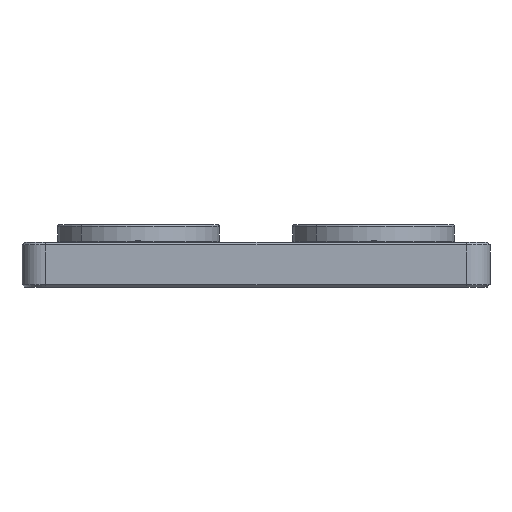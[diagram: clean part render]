
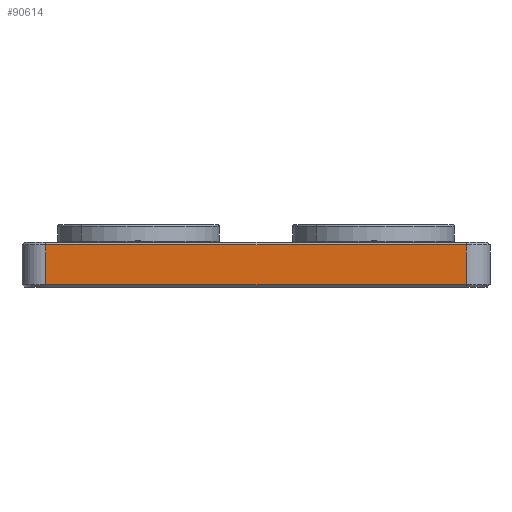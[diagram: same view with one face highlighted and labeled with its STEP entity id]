
A CAD part, front view. The second image highlights one B-rep face of the part: STEP entity #90614.
In plain terms, the highlighted planar face has unit normal (0, -1, 0).
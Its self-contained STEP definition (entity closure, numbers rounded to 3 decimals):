
#3214 = DIRECTION ( 'NONE',  ( -1., 0., 0. ) ) ;
#3708 = VECTOR ( 'NONE', #31132, 1000. ) ;
#6743 = VECTOR ( 'NONE', #7671, 1000. ) ;
#7671 = DIRECTION ( 'NONE',  ( 0., 0., 1. ) ) ;
#9305 = EDGE_CURVE ( 'NONE', #76966, #72842, #77827, .T. ) ;
#9892 = LINE ( 'NONE', #38690, #75388 ) ;
#18410 = EDGE_CURVE ( 'NONE', #63575, #77781, #98511, .T. ) ;
#31132 = DIRECTION ( 'NONE',  ( 0., 0., -1. ) ) ;
#38690 = CARTESIAN_POINT ( 'NONE',  ( -373.716, 156.841, 598.878 ) ) ;
#45429 = EDGE_CURVE ( 'NONE', #72842, #63575, #9892, .T. ) ;
#49217 = CARTESIAN_POINT ( 'NONE',  ( -393.716, 156.841, 600.878 ) ) ;
#52908 = CARTESIAN_POINT ( 'NONE',  ( -15.716, 156.841, 600.878 ) ) ;
#57359 = CARTESIAN_POINT ( 'NONE',  ( -15.716, 156.841, 564.878 ) ) ;
#57742 = PLANE ( 'NONE',  #71666 ) ;
#58131 = DIRECTION ( 'NONE',  ( 0., 0., 1. ) ) ;
#59113 = CARTESIAN_POINT ( 'NONE',  ( -373.716, 156.841, 564.878 ) ) ;
#63575 = VERTEX_POINT ( 'NONE', #112763 ) ;
#64039 = CARTESIAN_POINT ( 'NONE',  ( -15.716, 156.841, 598.878 ) ) ;
#65616 = CARTESIAN_POINT ( 'NONE',  ( -393.716, 156.841, 564.878 ) ) ;
#71080 = LINE ( 'NONE', #65616, #91971 ) ;
#71666 = AXIS2_PLACEMENT_3D ( 'NONE', #49217, #111403, #58131 ) ;
#72423 = ORIENTED_EDGE ( 'NONE', *, *, #80623, .T. ) ;
#72842 = VERTEX_POINT ( 'NONE', #64039 ) ;
#73901 = EDGE_LOOP ( 'NONE', ( #77104, #72423, #106939, #113761 ) ) ;
#75388 = VECTOR ( 'NONE', #3214, 1000. ) ;
#76966 = VERTEX_POINT ( 'NONE', #57359 ) ;
#77104 = ORIENTED_EDGE ( 'NONE', *, *, #18410, .T. ) ;
#77781 = VERTEX_POINT ( 'NONE', #59113 ) ;
#77827 = LINE ( 'NONE', #52908, #6743 ) ;
#80623 = EDGE_CURVE ( 'NONE', #77781, #76966, #71080, .T. ) ;
#90614 = ADVANCED_FACE ( 'NONE', ( #98751 ), #57742, .F. ) ;
#91971 = VECTOR ( 'NONE', #92512, 1000. ) ;
#92512 = DIRECTION ( 'NONE',  ( 1., 0., 0. ) ) ;
#93456 = CARTESIAN_POINT ( 'NONE',  ( -373.716, 156.841, 600.878 ) ) ;
#98511 = LINE ( 'NONE', #93456, #3708 ) ;
#98751 = FACE_OUTER_BOUND ( 'NONE', #73901, .T. ) ;
#106939 = ORIENTED_EDGE ( 'NONE', *, *, #9305, .T. ) ;
#111403 = DIRECTION ( 'NONE',  ( 0., 1., 0. ) ) ;
#112763 = CARTESIAN_POINT ( 'NONE',  ( -373.716, 156.841, 598.878 ) ) ;
#113761 = ORIENTED_EDGE ( 'NONE', *, *, #45429, .T. ) ;
